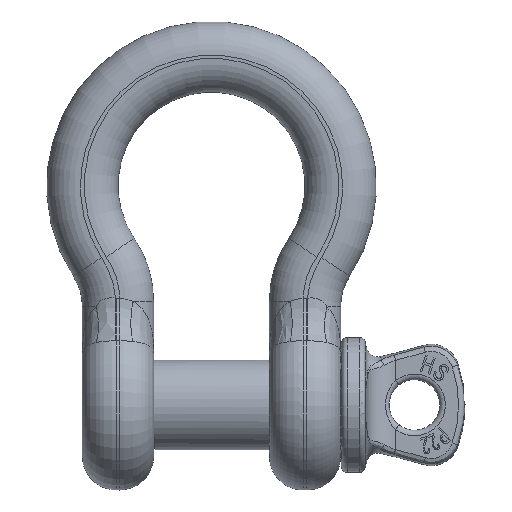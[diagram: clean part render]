
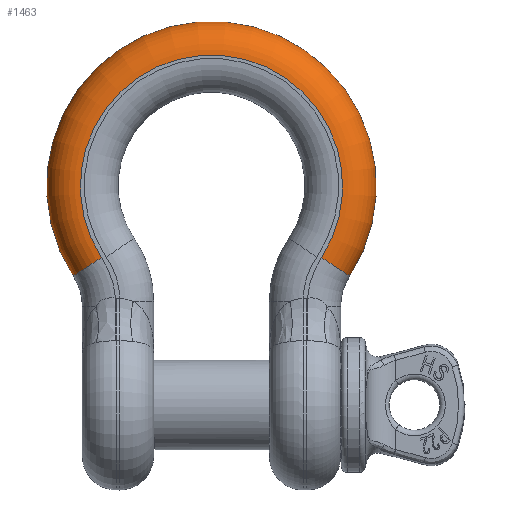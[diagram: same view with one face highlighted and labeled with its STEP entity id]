
A CAD part, top view. The second image highlights one B-rep face of the part: STEP entity #1463.
In plain terms, the highlighted toroidal (fillet/blend) face has major radius 23.35 mm and minor radius 6 mm.
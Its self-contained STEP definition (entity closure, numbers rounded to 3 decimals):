
#455=TOROIDAL_SURFACE('',#10325,23.35,6.);
#1463=ADVANCED_FACE('',(#2244),#455,.T.);
#2244=FACE_OUTER_BOUND('',#2784,.T.);
#2784=EDGE_LOOP('',(#4077,#4078,#4079,#4080));
#3383=CIRCLE('',#10276,23.35);
#3390=CIRCLE('',#10286,29.35);
#3410=CIRCLE('',#10320,6.);
#3412=CIRCLE('',#10324,6.);
#4077=ORIENTED_EDGE('',*,*,#7992,.F.);
#4078=ORIENTED_EDGE('',*,*,#7941,.F.);
#4079=ORIENTED_EDGE('',*,*,#7995,.T.);
#4080=ORIENTED_EDGE('',*,*,#7927,.F.);
#6898=VERTEX_POINT('',#15218);
#6899=VERTEX_POINT('',#15220);
#6908=VERTEX_POINT('',#15245);
#6909=VERTEX_POINT('',#15249);
#7927=EDGE_CURVE('',#6898,#6899,#3383,.T.);
#7941=EDGE_CURVE('',#6909,#6908,#3390,.T.);
#7992=EDGE_CURVE('',#6908,#6898,#3410,.T.);
#7995=EDGE_CURVE('',#6909,#6899,#3412,.T.);
#10276=AXIS2_PLACEMENT_3D('',#15219,#10996,#10997);
#10286=AXIS2_PLACEMENT_3D('',#15250,#11022,#11023);
#10320=AXIS2_PLACEMENT_3D('',#15423,#11105,#11106);
#10324=AXIS2_PLACEMENT_3D('',#15434,#11113,#11114);
#10325=AXIS2_PLACEMENT_3D('',#15435,#11115,#11116);
#10996=DIRECTION('',(0.,0.,1.));
#10997=DIRECTION('',(-1.,0.,0.));
#11022=DIRECTION('',(0.,0.,-1.));
#11023=DIRECTION('',(-1.,0.,0.));
#11105=DIRECTION('',(-0.545,-0.839,0.));
#11106=DIRECTION('',(-0.839,0.545,0.));
#11113=DIRECTION('',(-0.545,0.839,0.));
#11114=DIRECTION('',(0.839,0.545,0.));
#11115=DIRECTION('',(0.,0.,-1.));
#11116=DIRECTION('',(-1.,0.,0.));
#15218=CARTESIAN_POINT('',(19.582,-12.719,6.35));
#15219=CARTESIAN_POINT('',(0.,0.,6.35));
#15220=CARTESIAN_POINT('',(-19.582,-12.719,6.35));
#15245=CARTESIAN_POINT('',(24.614,-15.987,0.35));
#15249=CARTESIAN_POINT('',(-24.614,-15.987,0.35));
#15250=CARTESIAN_POINT('',(0.,0.,0.35));
#15423=CARTESIAN_POINT('',(19.582,-12.719,0.35));
#15434=CARTESIAN_POINT('',(-19.582,-12.719,0.35));
#15435=CARTESIAN_POINT('',(0.,0.,0.35));
